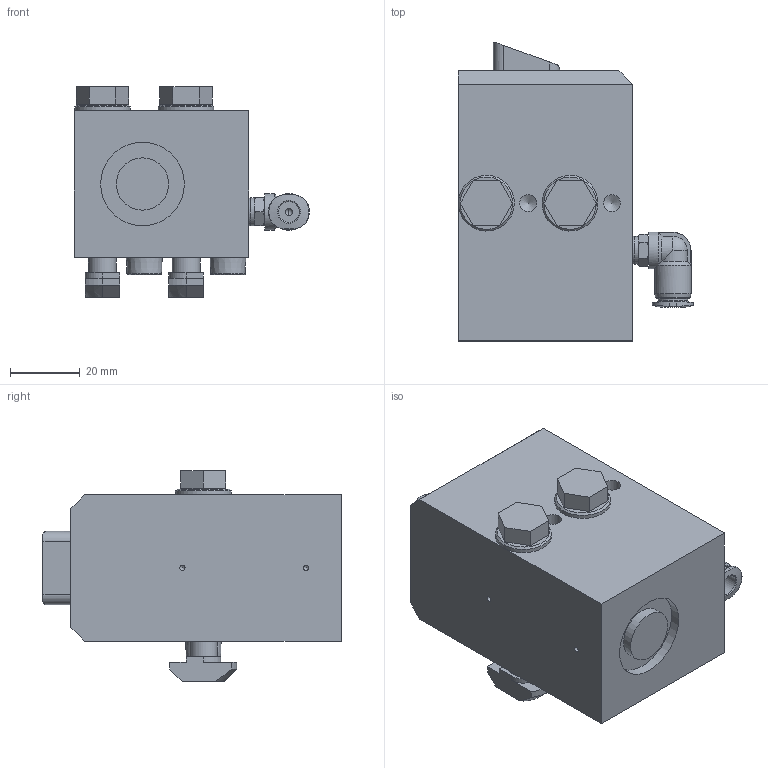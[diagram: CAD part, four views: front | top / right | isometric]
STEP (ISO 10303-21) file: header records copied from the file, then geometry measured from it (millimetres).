
FILE_DESCRIPTION (( 'STEP AP203' ), '1' );
FILE_NAME ('ASRP-101.STEP', '2017-01-25T11:20:44', ( '' ), ( '' ), 'SwSTEP 2.0', 'SolidWorks 2015', '' );
FILE_SCHEMA (( 'CONFIG_CONTROL_DESIGN' ));
Length unit declared in the file: metre
Products named in the file (1): ASRP-101
Bounding box: 67.4 x 85.5 x 60.4 mm (x, y, z)
Volume: 169107 mm3; surface area: 29603.7 mm2
Topology: 6 solids, 6 shells, 488 faces, 1276 edges, 836 vertices
Faces by surface type: plane 217, cylinder 178, cone 40, bspline 35, sphere 12, torus 6
Full cylindrical faces by diameter (mm): 1 x2, 1.5 x2, 2.1 x2, 4.2 x1, 4.5 x2, 4.8 x4, 5 x1, 6 x1, 8 x4, 8.01 x2, 8.2 x2, 8.4 x3, 9.45 x1, 10.5 x2, 11.6 x2, 15 x1, 16 x2, 24 x1
Entity records: 16834 total; most frequent: CARTESIAN_POINT 5165, ORIENTED_EDGE 2372, DIRECTION 2353, EDGE_CURVE 1186, AXIS2_PLACEMENT_3D 849, VERTEX_POINT 811, LINE 655, VECTOR 655
